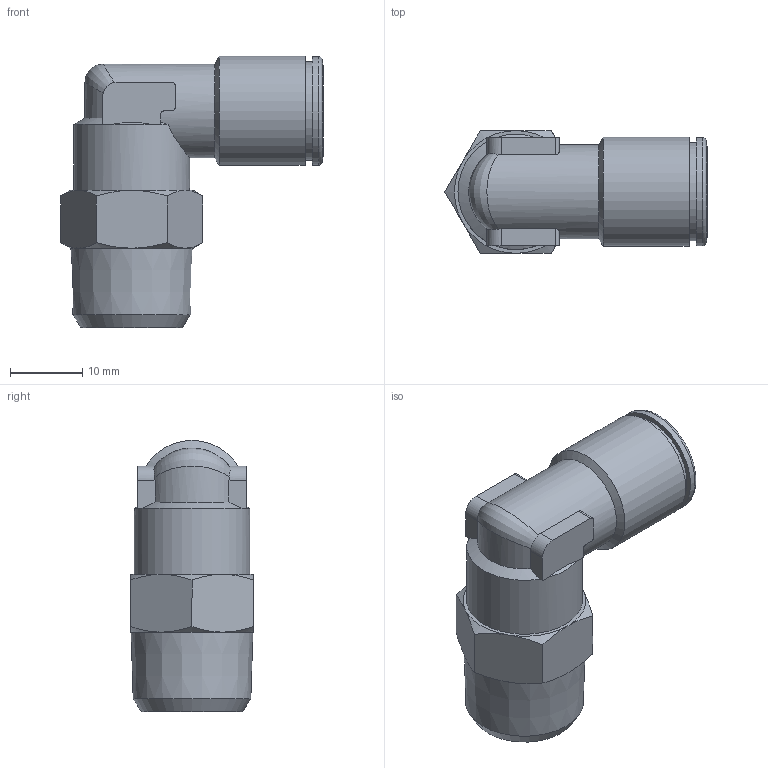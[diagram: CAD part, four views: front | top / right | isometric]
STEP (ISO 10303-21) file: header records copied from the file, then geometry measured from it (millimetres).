
FILE_DESCRIPTION(/* description */ (''),/* implementation_level */ '2;1');
FILE_NAME(/* name */ '202259-ES_STX022K_10_R38_20.06.16',/* time_stamp */ '2016-06-20T08:48:26+02:00',/* author */ (''),/* organization */ (''),/* preprocessor_version */ 'ST-DEVELOPER v16.5',/* originating_system */ 'HiCAD 2016 2101.0 Build 254',/* authorisation */ '');
FILE_SCHEMA (('AUTOMOTIVE_DESIGN { 1 0 10303 214 1 1 1 1 }'));
Length unit declared in the file: millimetre
Products named in the file (4): Root; 214637-1_Gew-Stck_1-4_3-8; R202208-ES-N; DR10-N
Assembly tree (3 placements, depth 2):
  Root
    214637-1_Gew-Stck_1-4_3-8
    R202208-ES-N
    DR10-N
Bounding box: 36.31 x 17 x 37.55 mm (x, y, z)
Volume: 5786.5 mm3; surface area: 6387.5 mm2
Topology: 3 solids, 3 shells, 96 faces, 222 edges, 136 vertices
Faces by surface type: plane 34, cone 33, cylinder 27, bspline 1, torus 1
Full cylindrical faces by diameter (mm): 8 x2, 10.2 x2, 11 x1, 12.2 x2, 12.3 x1, 13 x2, 13.5 x2, 13.6 x1, 13.7 x1, 15 x1, 15.1 x1, 16 x1
Entity records: 6444 total; most frequent: CARTESIAN_POINT 2591, DIRECTION 466, PRESENTATION_STYLE_ASSIGNMENT 357, COLOUR_RGB 355, DRAUGHTING_PRE_DEFINED_CURVE_FONT 354, CURVE_STYLE 354, OVER_RIDING_STYLED_ITEM 354, ORIENTED_EDGE 354
